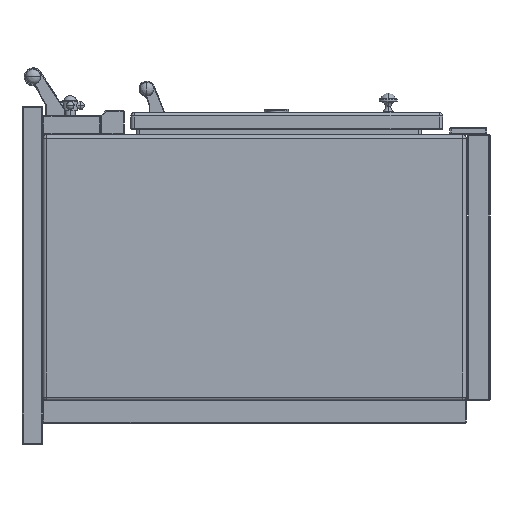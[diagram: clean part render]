
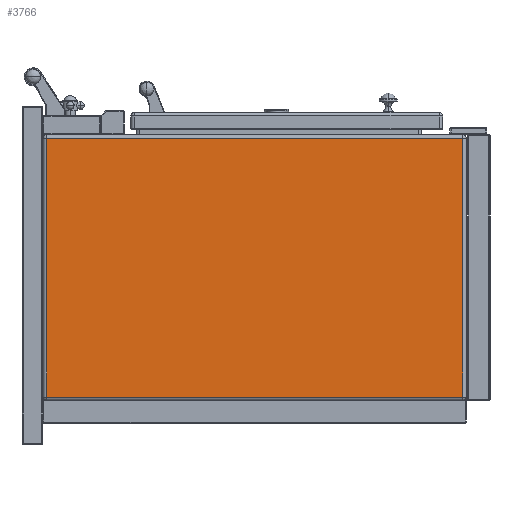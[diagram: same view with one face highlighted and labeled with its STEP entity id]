
A CAD part, left-side view. The second image highlights one B-rep face of the part: STEP entity #3766.
In plain terms, the highlighted planar face has unit normal (-1, 0, 0) as drawn and (1, 0, 0) by its records, which use the part's own axes.
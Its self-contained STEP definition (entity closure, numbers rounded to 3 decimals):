
#998=DIRECTION('',(0.,-1.,0.));
#999=VECTOR('',#998,801.);
#1000=CARTESIAN_POINT('',(550.,853.5,-249.));
#1001=LINE('',#1000,#999);
#1002=DIRECTION('',(0.,0.,1.));
#1003=VECTOR('',#1002,498.);
#1004=CARTESIAN_POINT('',(550.,52.5,-249.));
#1005=LINE('',#1004,#1003);
#1006=DIRECTION('',(0.,1.,0.));
#1007=VECTOR('',#1006,801.);
#1008=CARTESIAN_POINT('',(550.,52.5,249.));
#1009=LINE('',#1008,#1007);
#1010=DIRECTION('',(0.,0.,-1.));
#1011=VECTOR('',#1010,498.);
#1012=CARTESIAN_POINT('',(550.,853.5,249.));
#1013=LINE('',#1012,#1011);
#2053=CARTESIAN_POINT('',(550.,853.5,-249.));
#2054=CARTESIAN_POINT('',(550.,52.5,-249.));
#2055=VERTEX_POINT('',#2053);
#2056=VERTEX_POINT('',#2054);
#2075=CARTESIAN_POINT('',(550.,52.5,249.));
#2076=VERTEX_POINT('',#2075);
#2081=CARTESIAN_POINT('',(550.,853.5,249.));
#2082=VERTEX_POINT('',#2081);
#3754=CARTESIAN_POINT('',(550.,0.,0.));
#3755=DIRECTION('',(-1.,0.,0.));
#3756=DIRECTION('',(0.,0.,1.));
#3757=AXIS2_PLACEMENT_3D('',#3754,#3755,#3756);
#3758=PLANE('',#3757);
#3759=ORIENTED_EDGE('',*,*,#2820,.T.);
#3760=ORIENTED_EDGE('',*,*,#2849,.T.);
#3762=ORIENTED_EDGE('',*,*,#3761,.T.);
#3763=ORIENTED_EDGE('',*,*,#3745,.T.);
#3764=EDGE_LOOP('',(#3759,#3760,#3762,#3763));
#3765=FACE_OUTER_BOUND('',#3764,.F.);
#2820=EDGE_CURVE('',#2055,#2056,#1001,.T.);
#2849=EDGE_CURVE('',#2056,#2076,#1005,.T.);
#3745=EDGE_CURVE('',#2082,#2055,#1013,.T.);
#3761=EDGE_CURVE('',#2076,#2082,#1009,.T.);
#3766=ADVANCED_FACE('',(#3765),#3758,.F.);
